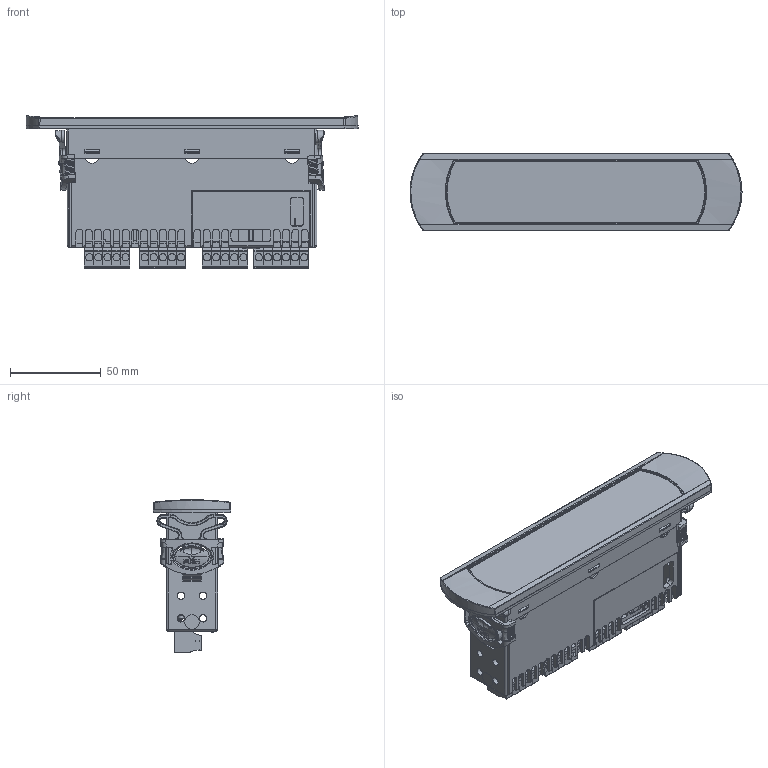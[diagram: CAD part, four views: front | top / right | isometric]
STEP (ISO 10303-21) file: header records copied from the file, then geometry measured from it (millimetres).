
FILE_DESCRIPTION (( 'STEP AP214' ), '1' );
FILE_NAME ('easy wide.STEP', '2017-01-31T15:57:12', ( '' ), ( '' ), 'SwSTEP 2.0', 'SolidWorks 2015', '' );
FILE_SCHEMA (( 'AUTOMOTIVE_DESIGN' ));
Length unit declared in the file: millimetre
Products named in the file (15): easy wide; 18C538A006_staffa; connX6; 18C716A045; 18C538A004_PORTELLINO_CAREL; connX5; morse 5; guarnizioneIR33wide-likePJeasy; 18C716A043; 18C716A046; PBEVC0HNBA-assemblyIR33+WIDE_PJversion; morse 6; IR33+small wide; 18C538A003_RETRO_CAREL; base
Assembly tree (29 placements, depth 5):
  easy wide
    18C538A003_RETRO_CAREL
    18C538A004_PORTELLINO_CAREL
    18C538A006_staffa  x2
    morse 6
    morse 5  x3
    connX6
      base  x6
    connX5  x3
      base
    IR33+small wide
      PBEVC0HNBA-assemblyIR33+WIDE_PJversion
        18C716A045
          18C716A043
        18C716A046
    guarnizioneIR33wide-likePJeasy
Bounding box: 182.7 x 42.5 x 83.89 mm (x, y, z)
Surface area: 79455.3 mm2 (no closed solid volume)
Topology: 0 solids, 122 shells, 3462 faces, 10079 edges, 6877 vertices
Faces by surface type: plane 2380, cylinder 541, bspline 288, cone 192, torus 33, sphere 28
Full cylindrical faces by diameter (mm): 2.6 x2, 2.8 x8, 3.964 x21, 4 x33, 8 x1
Entity records: 73407 total; most frequent: CARTESIAN_POINT 29621, ORIENTED_EDGE 8854, DIRECTION 7241, EDGE_CURVE 5018, VERTEX_POINT 3427, VECTOR 3189, LINE 3189, AXIS2_PLACEMENT_3D 2026
